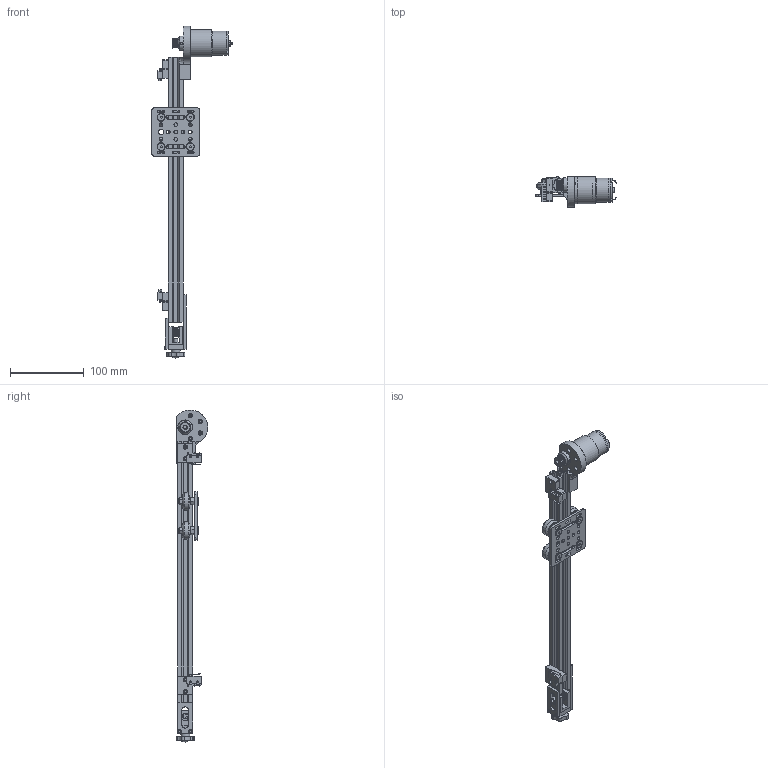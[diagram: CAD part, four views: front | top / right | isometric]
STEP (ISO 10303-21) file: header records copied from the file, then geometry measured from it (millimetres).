
FILE_DESCRIPTION(/* description */ (''),/* implementation_level */ '2;1');
FILE_NAME(/* name */ 'Assieme_guida_2020.stp',/* time_stamp */ '2026-01-11T19:18:43+01:00',/* author */ ('R5800u'),/* organization */ (''),/* preprocessor_version */ 'ST-DEVELOPER v20',/* originating_system */ 'Autodesk Inventor 2025',/* authorisation */ '');
FILE_SCHEMA (('AUTOMOTIVE_DESIGN { 1 0 10303 214 3 1 1 }'));
Length unit declared in the file: millimetre
Products named in the file (19): Assieme_guida_2020; 2020; 2020 Belt Tensioner G_K; 2020 Tensioner Pulley Cradle; 2020 Tensioner Rear; 2020 Tensioner Short side; 2020 Tensioner Long side; 2020 Tensioner Adjusting Screw; M5 Cap head Screw; GT2_Idler_20T_6mm.step; GT2_Idler_20T.step; M3x10mm bolt; GT2_20T; JGB37-520; blocco_motore; NO-NC Limit Switch; piatto; blocco_sensore; blocco_sensore_MIR
Assembly tree (22 placements, depth 4):
  Assieme_guida_2020
    2020
    2020 Belt Tensioner G_K
      2020 Tensioner Pulley Cradle
      2020 Tensioner Rear
      2020 Tensioner Short side
      2020 Tensioner Long side
      2020 Tensioner Adjusting Screw
      M5 Cap head Screw
      GT2_Idler_20T_6mm.step
        GT2_Idler_20T.step
      M3x10mm bolt  x4
    GT2_20T
    JGB37-520
    blocco_motore
    NO-NC Limit Switch  x2
    piatto
    blocco_sensore
    blocco_sensore_MIR
Bounding box: 109.63 x 42.55 x 451.22 mm (x, y, z)
Volume: 159388 mm3; surface area: 139887.9 mm2
Topology: 68 solids, 68 shells, 1271 faces, 3048 edges, 2000 vertices
Faces by surface type: plane 655, cylinder 525, cone 38, torus 27, bspline 15, sphere 11
Full cylindrical faces by diameter (mm): 1.6 x3, 1.8 x6, 2 x3, 2.2 x4, 2.5 x10, 2.6 x3, 3 x8, 3.2 x10, 4 x3, 4.2 x5, 4.25 x2, 4.3 x2, 5 x38, 5.1 x2, 5.4 x1, 5.5 x4, 5.7 x8, 6 x4, 7 x17, 7.12 x2, 7.2 x3, 7.5 x3, 7.8 x1, 9 x2, 10 x6, 11 x4, 12 x2, 12.5 x4, 13 x1, 14 x16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
Entity records: 37747 total; most frequent: CARTESIAN_POINT 8111, DIRECTION 6197, ORIENTED_EDGE 5618, EDGE_CURVE 2809, AXIS2_PLACEMENT_3D 2378, VERTEX_POINT 1844, EDGE_LOOP 1465, LINE 1441
